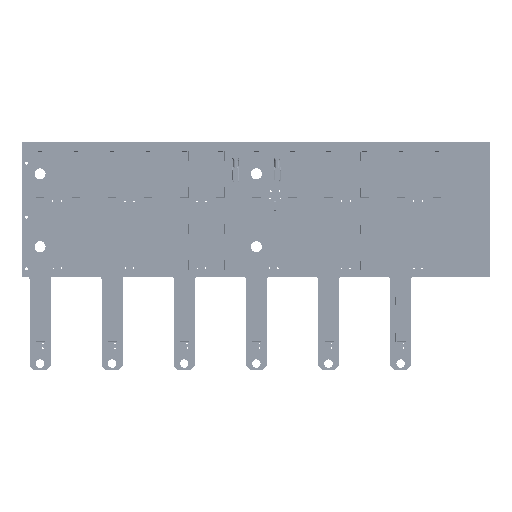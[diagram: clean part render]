
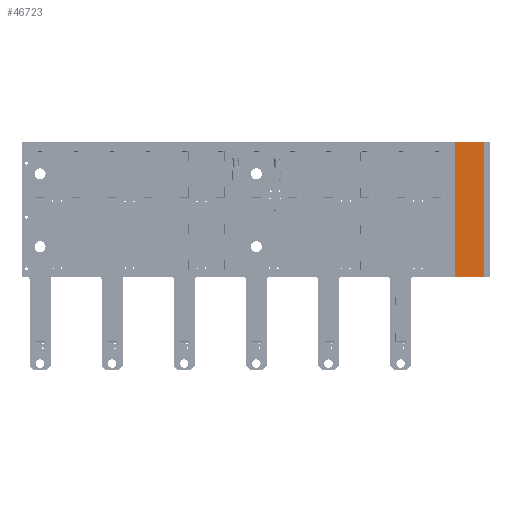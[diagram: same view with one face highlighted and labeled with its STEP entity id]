
A CAD part, top view. The second image highlights one B-rep face of the part: STEP entity #46723.
In plain terms, the highlighted planar face has unit normal (0, 0, 1).
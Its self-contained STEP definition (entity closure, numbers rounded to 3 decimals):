
#964 = DIRECTION ( 'NONE',  ( 0., 0., 1. ) ) ;
#982 = DIRECTION ( 'NONE',  ( 0., 1., 0. ) ) ;
#991 = DIRECTION ( 'NONE',  ( 1., 0., 0. ) ) ;
#1211 = FACE_OUTER_BOUND ( 'NONE', #33492, .T. ) ;
#2281 = CARTESIAN_POINT ( 'NONE',  ( 0., 0., 0.127 ) ) ;
#3041 = CARTESIAN_POINT ( 'NONE',  ( 9.525, 0., 0.127 ) ) ;
#4130 = CARTESIAN_POINT ( 'NONE',  ( 0., 44.45, 0.127 ) ) ;
#5041 = CARTESIAN_POINT ( 'NONE',  ( 0., 0., 0.127 ) ) ;
#8525 = ORIENTED_EDGE ( 'NONE', *, *, #44617, .T. ) ;
#9834 = DIRECTION ( 'NONE',  ( 0., 1., 0. ) ) ;
#12223 = PLANE ( 'NONE',  #35460 ) ;
#15581 = DIRECTION ( 'NONE',  ( 1., 0., 0. ) ) ;
#16744 = VECTOR ( 'NONE', #31525, 1000. ) ;
#17181 = VERTEX_POINT ( 'NONE', #41068 ) ;
#19683 = CARTESIAN_POINT ( 'NONE',  ( 0., 0., 0.127 ) ) ;
#19693 = LINE ( 'NONE', #4130, #37122 ) ;
#19889 = ORIENTED_EDGE ( 'NONE', *, *, #39462, .T. ) ;
#20521 = VERTEX_POINT ( 'NONE', #47294 ) ;
#20876 = VECTOR ( 'NONE', #9834, 1000. ) ;
#22179 = EDGE_CURVE ( 'NONE', #20521, #17181, #19693, .T. ) ;
#23029 = ORIENTED_EDGE ( 'NONE', *, *, #22179, .F. ) ;
#25513 = VECTOR ( 'NONE', #982, 1000. ) ;
#27691 = LINE ( 'NONE', #2281, #16744 ) ;
#28739 = VERTEX_POINT ( 'NONE', #19683 ) ;
#28755 = EDGE_CURVE ( 'NONE', #28739, #20521, #34267, .T. ) ;
#29373 = VERTEX_POINT ( 'NONE', #3041 ) ;
#31525 = DIRECTION ( 'NONE',  ( 1., 0., 0. ) ) ;
#33492 = EDGE_LOOP ( 'NONE', ( #23029, #36861, #8525, #19889 ) ) ;
#34267 = LINE ( 'NONE', #45494, #25513 ) ;
#35460 = AXIS2_PLACEMENT_3D ( 'NONE', #5041, #964, #15581 ) ;
#36861 = ORIENTED_EDGE ( 'NONE', *, *, #28755, .F. ) ;
#37122 = VECTOR ( 'NONE', #991, 1000. ) ;
#38345 = LINE ( 'NONE', #45981, #20876 ) ;
#39462 = EDGE_CURVE ( 'NONE', #29373, #17181, #38345, .T. ) ;
#41068 = CARTESIAN_POINT ( 'NONE',  ( 9.525, 44.45, 0.127 ) ) ;
#44617 = EDGE_CURVE ( 'NONE', #28739, #29373, #27691, .T. ) ;
#45494 = CARTESIAN_POINT ( 'NONE',  ( 0., 0., 0.127 ) ) ;
#45981 = CARTESIAN_POINT ( 'NONE',  ( 9.525, 0., 0.127 ) ) ;
#46723 = ADVANCED_FACE ( 'NONE', ( #1211 ), #12223, .T. ) ;
#47294 = CARTESIAN_POINT ( 'NONE',  ( 0., 44.45, 0.127 ) ) ;
